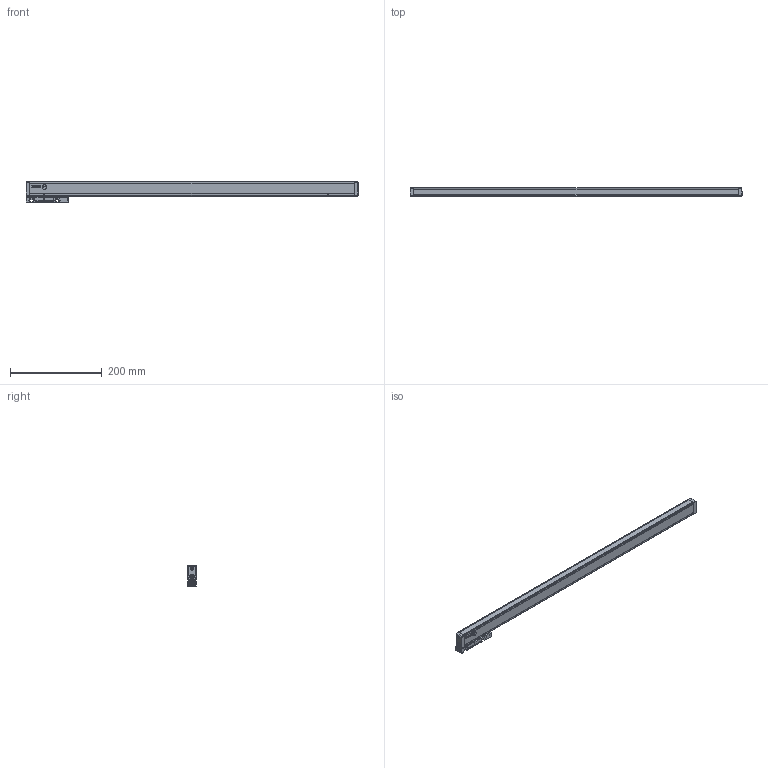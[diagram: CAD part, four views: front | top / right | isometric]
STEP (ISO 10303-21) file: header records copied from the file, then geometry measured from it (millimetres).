
FILE_DESCRIPTION(('Creo Elements/Direct Modeling STEP Export'),'2;1');
FILE_NAME('REGLA_SV3-620.stp','2020-10-30T12:55:34',(''),(''),'Creo Elements/Direct Modeling STEP processor for AP214 (Solid Model)','Creo Elements/Direct Modeling 19.0G 27-Nov-2017 (C) Parametric Technology GmbH','');
FILE_SCHEMA(('AUTOMOTIVE_DESIGN { 1 0 10303 214 1 1 1 1 }'));
Length unit declared in the file: millimetre
Products named in the file (4): PERFIL_REGLA_SV3-620; CABEZA_RANURADA_REGLA_S3
Assembly tree (2 placements, depth 2):
  PERFIL_REGLA_SV3-620
    PERFIL_REGLA_SV3-620
  CABEZA_RANURADA_REGLA_S3
    CABEZA_RANURADA_REGLA_S3
Bounding box: 725 x 18.3 x 46.2 mm (x, y, z)
Volume: 409425 mm3; surface area: 100271.6 mm2
Topology: 2 solids, 25 shells, 1508 faces, 4919 edges, 3517 vertices
Faces by surface type: plane 988, cylinder 369, cone 134, bspline 9, torus 8
Entity records: 63844 total; most frequent: CARTESIAN_POINT 12641, ORIENTED_EDGE 9818, DIRECTION 7788, EDGE_CURVE 4907, VECTOR 3690, LINE 3690, VERTEX_POINT 3517, AXIS2_PLACEMENT_3D 2049
